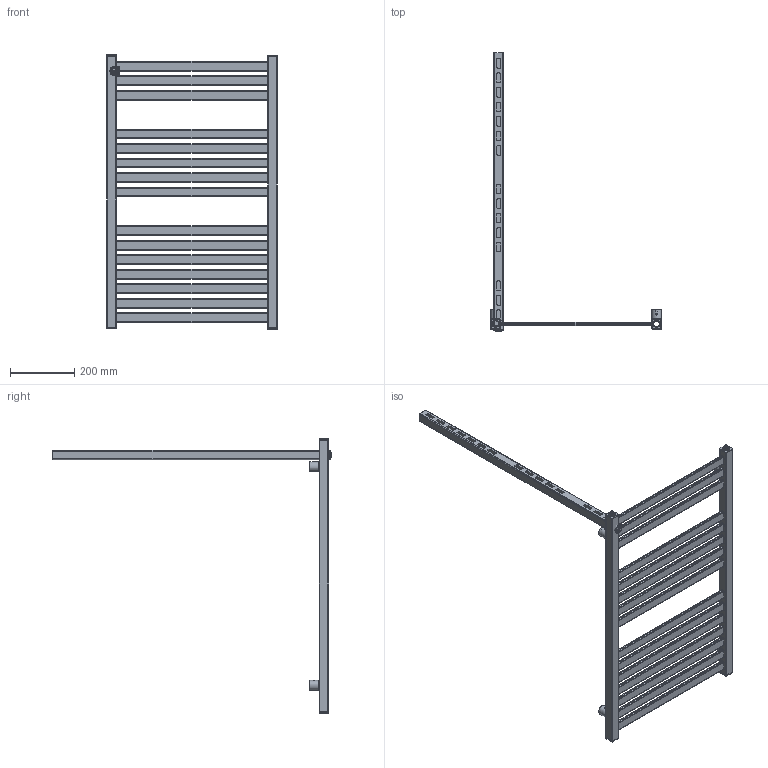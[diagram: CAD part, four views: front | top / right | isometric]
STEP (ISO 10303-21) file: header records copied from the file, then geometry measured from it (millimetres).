
FILE_DESCRIPTION( ( 'Unknown' ), '1' );
FILE_NAME( 'D:/Alplast sp. j/Witryna zespoBu - Projekty/Archiwum/Grzejniki Archiwum/Projekty/STANDARD/AK-EP/AK3-500EP.stp', 'Unknown', ( 'Unknown' ), ( 'Unknown' ), 'PSStep 10.1', 'Unknown', ' ' );
FILE_SCHEMA( ( 'AUTOMOTIVE_DESIGN { 1 0 10303 214 1 1 1 1 }' ) );
Length unit declared in the file: millimetre
Products named in the file (8): uchwyt plastikowy; Assem1; MOCOWANIE L40-01; MOCOWANIE FASOLKA; zaslepka kwadrat otwor; mocowanie; kana³  poziomy 30x10  500; AK3-EPEL
Bounding box: 530 x 864 x 850.13 mm (x, y, z)
Volume: 1300926.8 mm3; surface area: 1697946.3 mm2
Topology: 41 solids, 41 shells, 886 faces, 2376 edges, 1576 vertices
Faces by surface type: plane 482, cylinder 370, cone 24, torus 10
Full cylindrical faces by diameter (mm): 4.917 x6, 16 x5, 18 x5, 18.631 x5, 22 x6, 22.7 x6, 23 x11, 30 x6
Entity records: 8315 total; most frequent: CARTESIAN_POINT 1232, DIRECTION 1172, ORIENTED_EDGE 1056, EDGE_CURVE 528, AXIS2_PLACEMENT_3D 416, VERTEX_POINT 360, LINE 340, VECTOR 340
